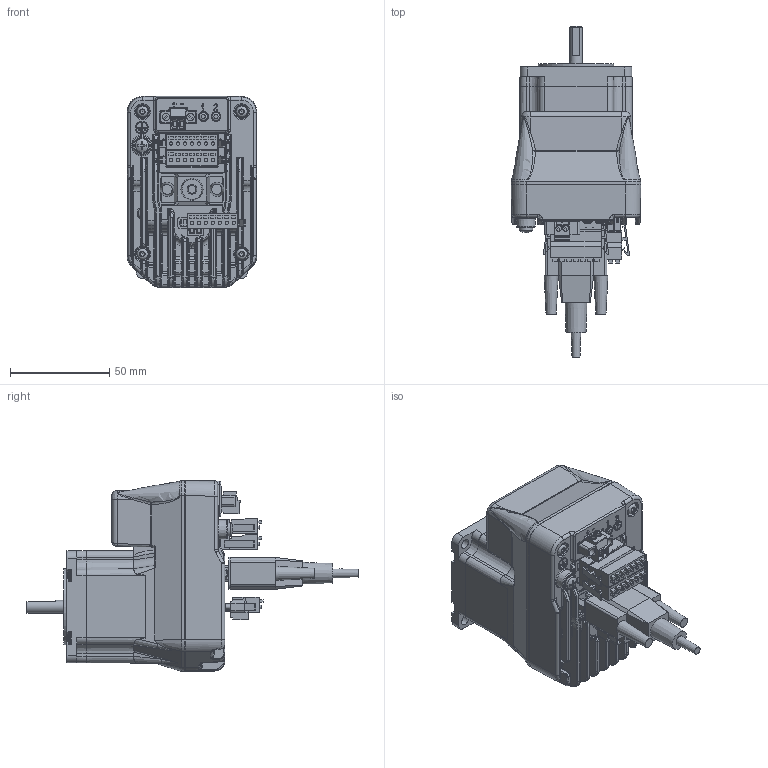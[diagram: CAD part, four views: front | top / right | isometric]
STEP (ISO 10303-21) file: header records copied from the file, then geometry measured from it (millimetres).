
FILE_DESCRIPTION(('LMDXPMA57-Single-Stack Web Model.stp'),'1');
FILE_NAME('T:/Kubotek Models For Design Assemblies/On-Line web models/LMD23/LMDXPMA57-Single-Stack Web Model.stp', '2013-04-02T15:58:25',('P. Bordua, 04/02/13'), ('Schneider Electric Motion USA'), 'KCM Version 1.1.514.0', 'Kubotek KeyCreator', 'Kubotek KeyCreator 2012 11.3.1');
FILE_SCHEMA(('AUTOMOTIVE_DESIGN'));
Length unit declared in the file: inch
Bounding box: 65.15 x 166.93 x 96.07 mm (x, y, z)
Volume: 394455.8 mm3; surface area: 68416.6 mm2
Topology: 9 solids, 9 shells, 3551 faces, 8966 edges, 5702 vertices
Faces by surface type: plane 2010, cylinder 743, bspline 579, cone 130, torus 56, sphere 33
Full cylindrical faces by diameter (mm): 1.092 x27, 1.6 x31, 1.611 x4, 1.686 x28, 2.261 x2, 2.5 x2, 2.743 x4, 3.792 x4, 5.004 x4, 5.007 x2, 5.6 x4, 6.35 x1, 6.858 x1, 7.692 x1, 16.18 x1, 38.1 x1
Entity records: 129368 total; most frequent: CARTESIAN_POINT 54336, ORIENTED_EDGE 14350, DIRECTION 12067, EDGE_CURVE 7175, VERTEX_POINT 4545, VECTOR 4191, LINE 4191, AXIS2_PLACEMENT_3D 3938
